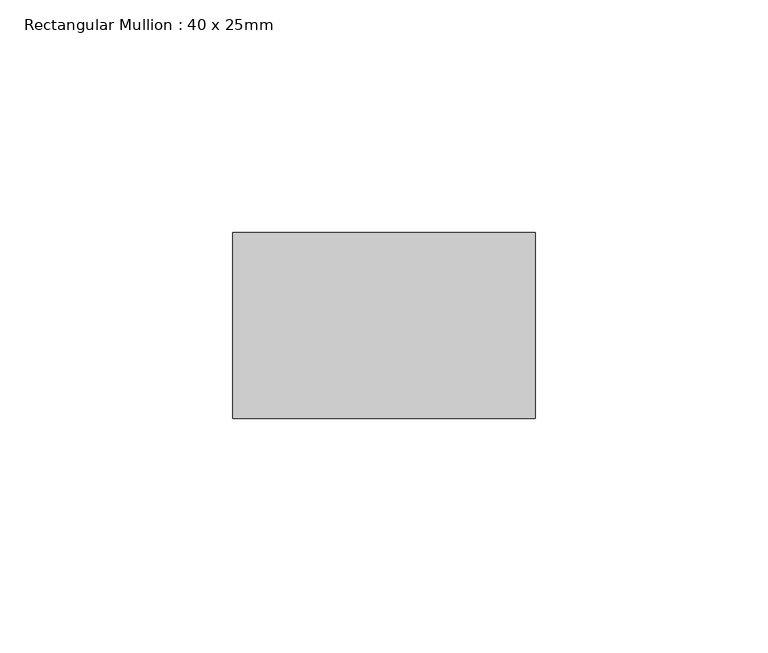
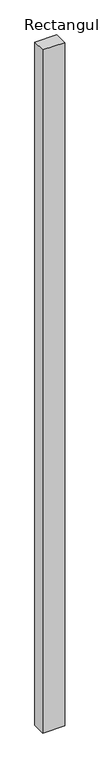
"""IFC4 building model written with IfcOpenShell, lengths in millimetres: member geometry, Rectangular Mullion : 40 x 25mm."""

from ifc_helpers import new_model, si_unit, frame, origin, place, context, project, spatial, polyline, outline, extrude, source, transform, mapped, element, save


def rectangular_mullion_40_x_25mm_de4fe269(model_context):
    return source(origin(), model_context, "Body", "SweptSolid", [
        extrude(outline(polyline([(40.0, -20.0), (40.0, -60.0), (-25.0, -60.0), (-25.0, -20.0), (40.0, -20.0)])), frame((0.0, 0.0, -2129.0820804), z_axis=(0.0, 0.0, 1.0), x_axis=(1.0, 0.0, 0.0)), (0.0, 0.0, 1.0), 2129.0820804),
    ])


if __name__ == "__main__":
    model = new_model("IFC4")
    model_context = context("Model", 3, world=origin())
    ifc_project = project(units=[si_unit("LENGTHUNIT", "METRE", prefix="MILLI")], contexts=[model_context])
    site = spatial("IfcSite", under=ifc_project)
    building = spatial("IfcBuilding", under=site)
    placement = place(None, origin())
    rectangular_mullion_40_x_25mm_shape = rectangular_mullion_40_x_25mm_de4fe269(model_context)
    element("IfcMember", 1, ObjectType="Rectangular Mullion : 40 x 25mm", at=placement, inside=building, context=model_context, shape_type="MappedRepresentation", body=[
        mapped(rectangular_mullion_40_x_25mm_shape, transform((0.0, 0.0, 0.0), x_axis=(1.0, 0.0, 0.0), y_axis=(0.0, 1.0, 0.0), z_axis=(0.0, 0.0, 1.0))),
    ])
    save(model, "model.ifc")
